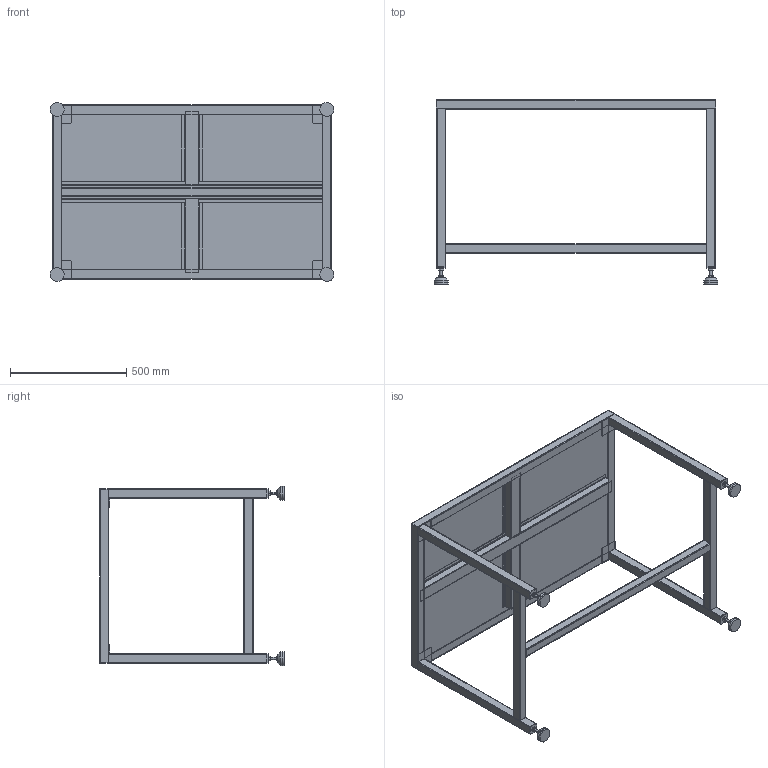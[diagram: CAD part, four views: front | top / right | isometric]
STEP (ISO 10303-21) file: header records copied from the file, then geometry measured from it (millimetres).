
FILE_DESCRIPTION (( 'STEP AP214' ), '1' );
FILE_NAME ('BAN CAN TRONG LUONG V2.STEP', '2026-06-01T04:48:18', ( '' ), ( '' ), 'SwSTEP 2.0', 'SolidWorks 2024', '' );
FILE_SCHEMA (( 'AUTOMOTIVE_DESIGN' ));
Length unit declared in the file: millimetre
Products named in the file (9): BAN CAN TRONG LUONG V2; DO GAM BAN; DO GAM BAN V2; C-CFJFNVS60-12-120(2); PAD CHONG; KHUNG BAN CAN_Default<As Machined>; C-CFJFNVS60-12-120_n; C-CFJFNVS60-12-120_b; MAT BAN CAN
Assembly tree (15 placements, depth 3):
  BAN CAN TRONG LUONG V2
    KHUNG BAN CAN_Default<As Machined>
    MAT BAN CAN
    PAD CHONG  x4
    DO GAM BAN
    DO GAM BAN V2  x2
    C-CFJFNVS60-12-120(2)  x4
      C-CFJFNVS60-12-120_b
      C-CFJFNVS60-12-120_n
Bounding box: 1219.89 x 795 x 769.89 mm (x, y, z)
Volume: 3572629.8 mm3; surface area: 4628020.4 mm2
Topology: 27 solids, 27 shells, 614 faces, 1444 edges, 896 vertices
Faces by surface type: plane 350, cylinder 176, cone 40, torus 32, bspline 16
Entity records: 12971 total; most frequent: CARTESIAN_POINT 3572, DIRECTION 1884, ORIENTED_EDGE 1836, EDGE_CURVE 918, AXIS2_PLACEMENT_3D 638, LINE 608, VECTOR 608, VERTEX_POINT 566
